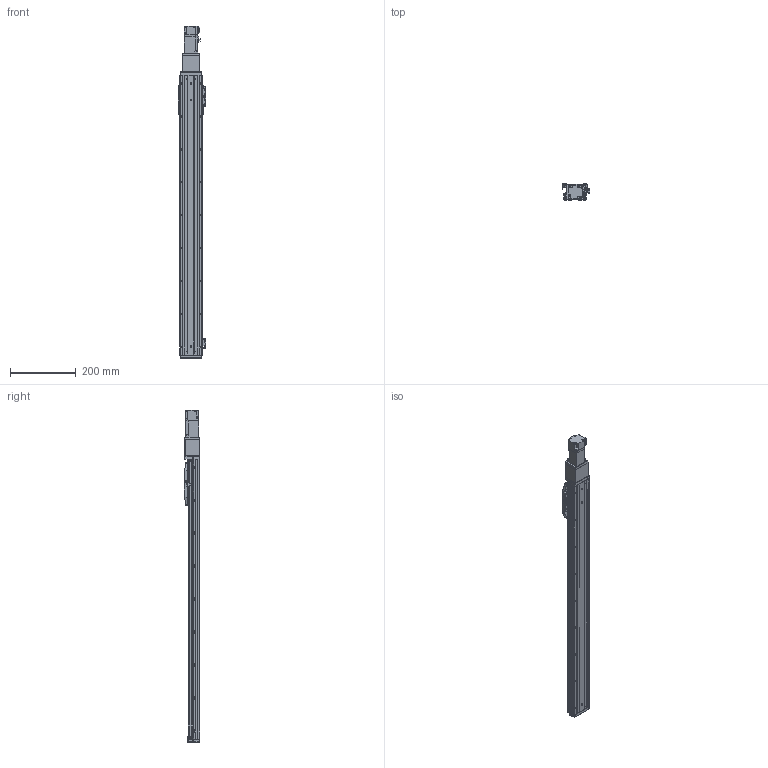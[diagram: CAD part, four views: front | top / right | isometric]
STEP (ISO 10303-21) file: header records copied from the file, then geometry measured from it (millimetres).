
FILE_DESCRIPTION (( 'STEP AP214' ), '1' );
FILE_NAME ('CTHA60-700-BC-M10-C4L.step', '2022-03-19T06:11:12', ( '微软用户' ), ( '微软中国' ), 'SwSTEP 2.0', 'SolidWorks 2020', '' );
FILE_SCHEMA (( 'AUTOMOTIVE_DESIGN' ));
Length unit declared in the file: millimetre
Products named in the file (19): CTHA60-016; CTHA60-001_850; CTHA60-006; GB¨uT 70.2-M3¡Á6_M3¡Á6; CTHA60-031; CTHA60-021; GBT 70.1-M3℅6; CTHA60-027; CTHA60-004; HG-KR13（三菱）; EE_SX911P_R; CTHA60-700-BC-M10-C4L; GBT 70.1-M4×16; GBT 70.3-M3℅6; CTHA60-013; CTHA60-005; CTHA60-002; CTHA60-017; GBT77-2000 M3×3
Assembly tree (57 placements, depth 2):
  CTHA60-700-BC-M10-C4L
    CTHA60-001_850
    CTHA60-004
    CTHA60-005
    GB¨uT 70.2-M3¡Á6_M3¡Á6  x10
    EE_SX911P_R  x3
    CTHA60-017  x3
    CTHA60-021  x2
    GBT 70.1-M4×16  x10
    GBT77-2000 M3×3  x6
    GBT 70.1-M3℅6  x6
    GBT 70.3-M3℅6  x6
    CTHA60-016  x2
    CTHA60-027
    CTHA60-013
    CTHA60-006
    HG-KR13（三菱）
    CTHA60-002
    CTHA60-031
Bounding box: 83.12 x 48 x 1008.6 mm (x, y, z)
Volume: 1601461.9 mm3; surface area: 444698.4 mm2
Topology: 59 solids, 59 shells, 2495 faces, 5965 edges, 3659 vertices
Faces by surface type: plane 1450, cylinder 561, cone 364, torus 96, sphere 24
Entity records: 40402 total; most frequent: CARTESIAN_POINT 6816, DIRECTION 6712, ORIENTED_EDGE 6510, EDGE_CURVE 3255, LINE 2400, VECTOR 2400, AXIS2_PLACEMENT_3D 2156, VERTEX_POINT 2056
